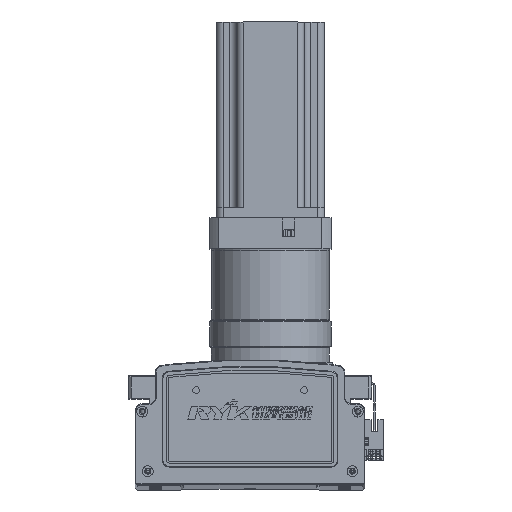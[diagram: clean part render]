
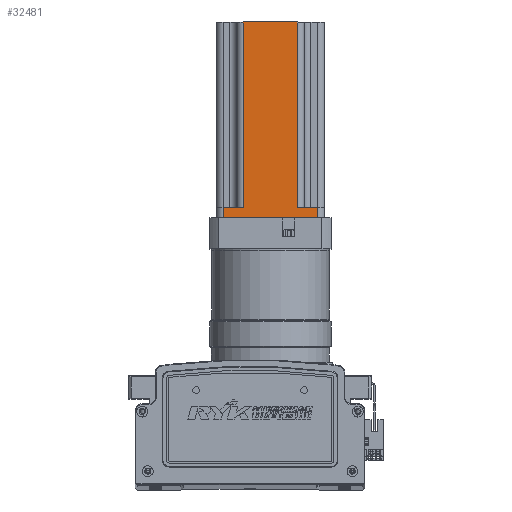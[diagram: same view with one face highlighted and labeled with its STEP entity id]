
A CAD part, top view. The second image highlights one B-rep face of the part: STEP entity #32481.
In plain terms, the highlighted planar face has unit normal (0, 0, 1) as drawn and (0, -1, 0) by its records, which use the part's own axes.
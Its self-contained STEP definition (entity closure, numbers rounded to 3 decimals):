
#1734 = FACE_OUTER_BOUND ( 'NONE', #50579, .T. ) ;
#6594 = AXIS2_PLACEMENT_3D ( 'NONE', #61075, #61066, #61068 ) ;
#26285 = VECTOR ( 'NONE', #80249, 1000. ) ;
#26301 = VECTOR ( 'NONE', #80250, 1000. ) ;
#26379 = VECTOR ( 'NONE', #80210, 1000. ) ;
#26388 = LINE ( 'NONE', #80265, #26301 ) ;
#26413 = LINE ( 'NONE', #80214, #26379 ) ;
#26426 = LINE ( 'NONE', #80237, #26285 ) ;
#28818 = LINE ( 'NONE', #80169, #28824 ) ;
#28821 = VECTOR ( 'NONE', #80171, 1000. ) ;
#28824 = VECTOR ( 'NONE', #80188, 1000. ) ;
#28828 = LINE ( 'NONE', #80140, #28821 ) ;
#29880 = VECTOR ( 'NONE', #80351, 1000. ) ;
#29887 = LINE ( 'NONE', #80295, #29931 ) ;
#29893 = LINE ( 'NONE', #80388, #29904 ) ;
#29904 = VECTOR ( 'NONE', #80392, 1000. ) ;
#29930 = LINE ( 'NONE', #80354, #29880 ) ;
#29931 = VECTOR ( 'NONE', #80279, 1000. ) ;
#32481 = ADVANCED_FACE ( 'NONE', ( #1734 ), #61045, .F. ) ;
#35569 = EDGE_CURVE ( 'NONE', #40492, #40430, #28818, .T. ) ;
#35570 = EDGE_CURVE ( 'NONE', #40312, #40286, #28828, .T. ) ;
#35597 = EDGE_CURVE ( 'NONE', #40477, #40430, #26413, .T. ) ;
#35603 = EDGE_CURVE ( 'NONE', #40492, #40433, #26426, .T. ) ;
#35604 = EDGE_CURVE ( 'NONE', #40477, #40286, #26388, .T. ) ;
#35626 = EDGE_CURVE ( 'NONE', #40428, #40433, #29887, .T. ) ;
#35644 = EDGE_CURVE ( 'NONE', #40344, #40428, #29930, .T. ) ;
#35654 = EDGE_CURVE ( 'NONE', #40312, #40344, #29893, .T. ) ;
#40286 = VERTEX_POINT ( 'NONE', #78513 ) ;
#40312 = VERTEX_POINT ( 'NONE', #66103 ) ;
#40344 = VERTEX_POINT ( 'NONE', #66093 ) ;
#40428 = VERTEX_POINT ( 'NONE', #66175 ) ;
#40430 = VERTEX_POINT ( 'NONE', #66192 ) ;
#40433 = VERTEX_POINT ( 'NONE', #66160 ) ;
#40477 = VERTEX_POINT ( 'NONE', #66195 ) ;
#40492 = VERTEX_POINT ( 'NONE', #66185 ) ;
#50579 = EDGE_LOOP ( 'NONE', ( #55587, #55643, #55616, #55610, #55674, #55671, #55695, #55652 ) ) ;
#55587 = ORIENTED_EDGE ( 'NONE', *, *, #35570, .F. ) ;
#55610 = ORIENTED_EDGE ( 'NONE', *, *, #35626, .T. ) ;
#55616 = ORIENTED_EDGE ( 'NONE', *, *, #35644, .T. ) ;
#55643 = ORIENTED_EDGE ( 'NONE', *, *, #35654, .T. ) ;
#55652 = ORIENTED_EDGE ( 'NONE', *, *, #35604, .T. ) ;
#55671 = ORIENTED_EDGE ( 'NONE', *, *, #35569, .T. ) ;
#55674 = ORIENTED_EDGE ( 'NONE', *, *, #35603, .F. ) ;
#55695 = ORIENTED_EDGE ( 'NONE', *, *, #35597, .F. ) ;
#61045 = PLANE ( 'NONE',  #6594 ) ;
#61066 = DIRECTION ( 'NONE',  ( 0., 1., 0. ) ) ;
#61068 = DIRECTION ( 'NONE',  ( -1., 0., 0. ) ) ;
#61075 = CARTESIAN_POINT ( 'NONE',  ( -87.587, -40.37, 145. ) ) ;
#66093 = CARTESIAN_POINT ( 'NONE',  ( -82.587, -40.37, 0. ) ) ;
#66103 = CARTESIAN_POINT ( 'NONE',  ( -82.587, -40.37, 8. ) ) ;
#66160 = CARTESIAN_POINT ( 'NONE',  ( -12.587, -40.37, 8. ) ) ;
#66175 = CARTESIAN_POINT ( 'NONE',  ( -12.587, -40.37, 0. ) ) ;
#66185 = CARTESIAN_POINT ( 'NONE',  ( -27.587, -40.37, 8. ) ) ;
#66192 = CARTESIAN_POINT ( 'NONE',  ( -27.587, -40.37, 145. ) ) ;
#66195 = CARTESIAN_POINT ( 'NONE',  ( -67.587, -40.37, 145. ) ) ;
#78513 = CARTESIAN_POINT ( 'NONE',  ( -67.587, -40.37, 8. ) ) ;
#80140 = CARTESIAN_POINT ( 'NONE',  ( -87.587, -40.37, 8. ) ) ;
#80169 = CARTESIAN_POINT ( 'NONE',  ( -27.587, -40.37, 145. ) ) ;
#80171 = DIRECTION ( 'NONE',  ( 1., 0., 0. ) ) ;
#80188 = DIRECTION ( 'NONE',  ( 0., 0., 1. ) ) ;
#80210 = DIRECTION ( 'NONE',  ( 1., 0., 0. ) ) ;
#80214 = CARTESIAN_POINT ( 'NONE',  ( -87.587, -40.37, 145. ) ) ;
#80237 = CARTESIAN_POINT ( 'NONE',  ( -7.587, -40.37, 8. ) ) ;
#80249 = DIRECTION ( 'NONE',  ( 1., 0., 0. ) ) ;
#80250 = DIRECTION ( 'NONE',  ( 0., 0., -1. ) ) ;
#80265 = CARTESIAN_POINT ( 'NONE',  ( -67.587, -40.37, 145. ) ) ;
#80279 = DIRECTION ( 'NONE',  ( 0., 0., 1. ) ) ;
#80295 = CARTESIAN_POINT ( 'NONE',  ( -12.587, -40.37, 145. ) ) ;
#80351 = DIRECTION ( 'NONE',  ( 1., 0., 0. ) ) ;
#80354 = CARTESIAN_POINT ( 'NONE',  ( -87.587, -40.37, 0. ) ) ;
#80388 = CARTESIAN_POINT ( 'NONE',  ( -82.587, -40.37, 145. ) ) ;
#80392 = DIRECTION ( 'NONE',  ( 0., 0., -1. ) ) ;
